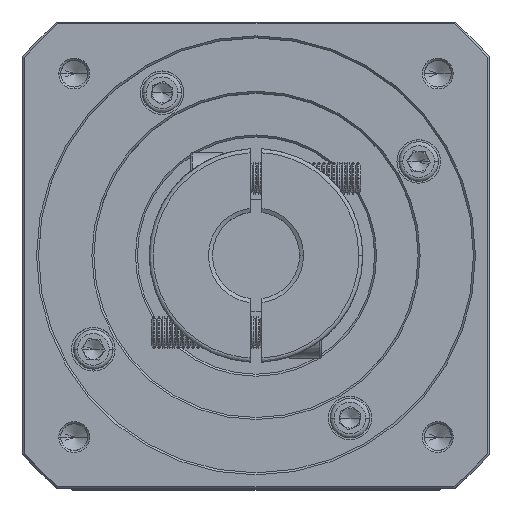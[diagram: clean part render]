
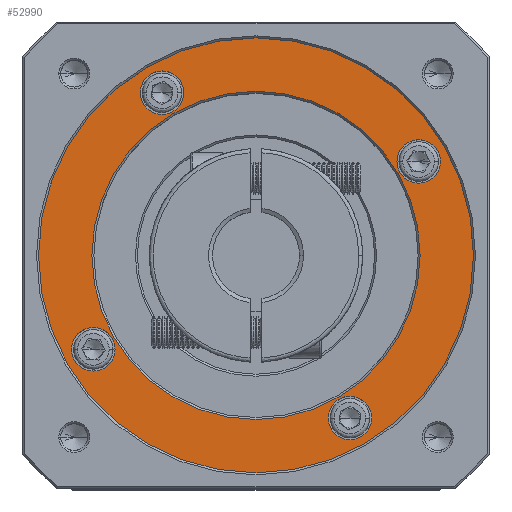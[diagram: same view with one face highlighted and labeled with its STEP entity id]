
A CAD part, top view. The second image highlights one B-rep face of the part: STEP entity #52990.
In plain terms, the highlighted planar face has unit normal (0, 0, 1).
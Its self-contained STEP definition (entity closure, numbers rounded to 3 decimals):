
#717 = EDGE_CURVE ( 'NONE', #68396, #26515, #9980, .T. ) ;
#1018 = CARTESIAN_POINT ( 'NONE',  ( 19.019, -85.161, 7.293 ) ) ;
#3487 = ORIENTED_EDGE ( 'NONE', *, *, #39993, .T. ) ;
#3622 = AXIS2_PLACEMENT_3D ( 'NONE', #31146, #39356, #107717 ) ;
#3686 = EDGE_LOOP ( 'NONE', ( #40477, #69964 ) ) ;
#3776 = VERTEX_POINT ( 'NONE', #1018 ) ;
#3950 = ORIENTED_EDGE ( 'NONE', *, *, #60966, .T. ) ;
#4181 = AXIS2_PLACEMENT_3D ( 'NONE', #8842, #42333, #42705 ) ;
#6910 = CARTESIAN_POINT ( 'NONE',  ( -56.867, -67.775, 7.293 ) ) ;
#8547 = ORIENTED_EDGE ( 'NONE', *, *, #33629, .T. ) ;
#8552 = FACE_BOUND ( 'NONE', #28548, .T. ) ;
#8643 = EDGE_CURVE ( 'NONE', #3776, #52521, #106061, .T. ) ;
#8842 = CARTESIAN_POINT ( 'NONE',  ( -3.867, -150.047, 7.293 ) ) ;
#9980 = CIRCLE ( 'NONE', #21817, 5.5 ) ;
#11939 = EDGE_CURVE ( 'NONE', #64395, #37717, #82953, .T. ) ;
#13241 = VERTEX_POINT ( 'NONE', #107887 ) ;
#16379 = DIRECTION ( 'NONE',  ( 1., 0., 0. ) ) ;
#18706 = DIRECTION ( 'NONE',  ( 0., 0., -1. ) ) ;
#19297 = FACE_BOUND ( 'NONE', #89128, .T. ) ;
#20358 = ORIENTED_EDGE ( 'NONE', *, *, #108509, .T. ) ;
#20667 = AXIS2_PLACEMENT_3D ( 'NONE', #34637, #34263, #50646 ) ;
#21791 = CIRCLE ( 'NONE', #100159, 5.5 ) ;
#21817 = AXIS2_PLACEMENT_3D ( 'NONE', #106759, #55926, #39884 ) ;
#23456 = VERTEX_POINT ( 'NONE', #43011 ) ;
#23624 = DIRECTION ( 'NONE',  ( 1., 0., 0. ) ) ;
#24142 = CARTESIAN_POINT ( 'NONE',  ( 13.519, -85.161, 7.293 ) ) ;
#24824 = CARTESIAN_POINT ( 'NONE',  ( 8.019, -85.161, 7.293 ) ) ;
#26058 = EDGE_CURVE ( 'NONE', #13241, #64993, #36063, .T. ) ;
#26515 = VERTEX_POINT ( 'NONE', #68409 ) ;
#27115 = ORIENTED_EDGE ( 'NONE', *, *, #8643, .T. ) ;
#28548 = EDGE_LOOP ( 'NONE', ( #20358, #85773 ) ) ;
#28776 = VERTEX_POINT ( 'NONE', #65918 ) ;
#31146 = CARTESIAN_POINT ( 'NONE',  ( -51.367, -67.775, 7.293 ) ) ;
#31291 = CIRCLE ( 'NONE', #36622, 41.5 ) ;
#31368 = CARTESIAN_POINT ( 'NONE',  ( -3.867, -150.047, 7.293 ) ) ;
#31747 = AXIS2_PLACEMENT_3D ( 'NONE', #67732, #75161, #101553 ) ;
#33629 = EDGE_CURVE ( 'NONE', #64993, #13241, #87916, .T. ) ;
#34046 = EDGE_CURVE ( 'NONE', #28776, #92387, #87690, .T. ) ;
#34263 = DIRECTION ( 'NONE',  ( 0., 0., -1. ) ) ;
#34637 = CARTESIAN_POINT ( 'NONE',  ( 13.519, -85.161, 7.293 ) ) ;
#35774 = CARTESIAN_POINT ( 'NONE',  ( -27.617, -108.911, 7.293 ) ) ;
#36063 = CIRCLE ( 'NONE', #109883, 5.5 ) ;
#36622 = AXIS2_PLACEMENT_3D ( 'NONE', #35774, #18706, #106304 ) ;
#37717 = VERTEX_POINT ( 'NONE', #74545 ) ;
#38947 = AXIS2_PLACEMENT_3D ( 'NONE', #92201, #91844, #100381 ) ;
#39356 = DIRECTION ( 'NONE',  ( 0., 0., -1. ) ) ;
#39884 = DIRECTION ( 'NONE',  ( 1., 0., 0. ) ) ;
#39993 = EDGE_CURVE ( 'NONE', #23456, #110254, #54758, .T. ) ;
#40477 = ORIENTED_EDGE ( 'NONE', *, *, #34046, .T. ) ;
#42135 = CARTESIAN_POINT ( 'NONE',  ( -68.753, -132.661, 7.293 ) ) ;
#42286 = EDGE_LOOP ( 'NONE', ( #27115, #88355 ) ) ;
#42333 = DIRECTION ( 'NONE',  ( 0., 0., -1. ) ) ;
#42705 = DIRECTION ( 'NONE',  ( 1., 0., 0. ) ) ;
#43011 = CARTESIAN_POINT ( 'NONE',  ( 27.383, -108.911, 7.293 ) ) ;
#44531 = FACE_BOUND ( 'NONE', #3686, .T. ) ;
#47926 = ORIENTED_EDGE ( 'NONE', *, *, #26058, .T. ) ;
#49216 = DIRECTION ( 'NONE',  ( 0., -1., 0. ) ) ;
#49580 = DIRECTION ( 'NONE',  ( 0., 0., -1. ) ) ;
#50349 = DIRECTION ( 'NONE',  ( 0., 0., 1. ) ) ;
#50646 = DIRECTION ( 'NONE',  ( 1., 0., 0. ) ) ;
#52521 = VERTEX_POINT ( 'NONE', #24824 ) ;
#52990 = ADVANCED_FACE ( 'NONE', ( #67166, #44531, #91000, #8552, #105631, #19297 ), #85603, .T. ) ;
#54465 = EDGE_LOOP ( 'NONE', ( #61940, #73964 ) ) ;
#54758 = CIRCLE ( 'NONE', #77659, 55. ) ;
#55926 = DIRECTION ( 'NONE',  ( 0., 0., -1. ) ) ;
#59620 = CIRCLE ( 'NONE', #3622, 5.5 ) ;
#60966 = EDGE_CURVE ( 'NONE', #110254, #23456, #92517, .T. ) ;
#61940 = ORIENTED_EDGE ( 'NONE', *, *, #91955, .T. ) ;
#62811 = CARTESIAN_POINT ( 'NONE',  ( -9.367, -150.047, 7.293 ) ) ;
#64395 = VERTEX_POINT ( 'NONE', #62811 ) ;
#64993 = VERTEX_POINT ( 'NONE', #66362 ) ;
#65727 = DIRECTION ( 'NONE',  ( 1., 0., 0. ) ) ;
#65918 = CARTESIAN_POINT ( 'NONE',  ( -27.617, -150.411, 7.293 ) ) ;
#66362 = CARTESIAN_POINT ( 'NONE',  ( -63.253, -132.661, 7.293 ) ) ;
#67166 = FACE_OUTER_BOUND ( 'NONE', #99456, .T. ) ;
#67732 = CARTESIAN_POINT ( 'NONE',  ( -27.617, -108.911, 7.293 ) ) ;
#68396 = VERTEX_POINT ( 'NONE', #6910 ) ;
#68409 = CARTESIAN_POINT ( 'NONE',  ( -45.867, -67.775, 7.293 ) ) ;
#69964 = ORIENTED_EDGE ( 'NONE', *, *, #92742, .T. ) ;
#73564 = AXIS2_PLACEMENT_3D ( 'NONE', #75999, #50349, #110135 ) ;
#73779 = DIRECTION ( 'NONE',  ( 0., 0., -1. ) ) ;
#73964 = ORIENTED_EDGE ( 'NONE', *, *, #717, .T. ) ;
#74545 = CARTESIAN_POINT ( 'NONE',  ( 1.633, -150.047, 7.293 ) ) ;
#75161 = DIRECTION ( 'NONE',  ( 0., 0., 1. ) ) ;
#75999 = CARTESIAN_POINT ( 'NONE',  ( -27.617, -108.911, 7.293 ) ) ;
#76686 = DIRECTION ( 'NONE',  ( 0., 0., -1. ) ) ;
#77103 = CIRCLE ( 'NONE', #4181, 5.5 ) ;
#77659 = AXIS2_PLACEMENT_3D ( 'NONE', #91435, #108492, #16379 ) ;
#81580 = CARTESIAN_POINT ( 'NONE',  ( -27.617, -108.911, 7.293 ) ) ;
#82953 = CIRCLE ( 'NONE', #95913, 5.5 ) ;
#84832 = DIRECTION ( 'NONE',  ( 1., 0., 0. ) ) ;
#85603 = PLANE ( 'NONE',  #73564 ) ;
#85773 = ORIENTED_EDGE ( 'NONE', *, *, #11939, .T. ) ;
#87351 = EDGE_CURVE ( 'NONE', #52521, #3776, #21791, .T. ) ;
#87690 = CIRCLE ( 'NONE', #95924, 41.5 ) ;
#87916 = CIRCLE ( 'NONE', #38947, 5.5 ) ;
#88355 = ORIENTED_EDGE ( 'NONE', *, *, #87351, .T. ) ;
#89128 = EDGE_LOOP ( 'NONE', ( #8547, #47926 ) ) ;
#89556 = CARTESIAN_POINT ( 'NONE',  ( -82.617, -108.911, 7.293 ) ) ;
#91000 = FACE_BOUND ( 'NONE', #42286, .T. ) ;
#91435 = CARTESIAN_POINT ( 'NONE',  ( -27.617, -108.911, 7.293 ) ) ;
#91844 = DIRECTION ( 'NONE',  ( 0., 0., -1. ) ) ;
#91955 = EDGE_CURVE ( 'NONE', #26515, #68396, #59620, .T. ) ;
#92201 = CARTESIAN_POINT ( 'NONE',  ( -68.753, -132.661, 7.293 ) ) ;
#92387 = VERTEX_POINT ( 'NONE', #104498 ) ;
#92517 = CIRCLE ( 'NONE', #31747, 55. ) ;
#92742 = EDGE_CURVE ( 'NONE', #92387, #28776, #31291, .T. ) ;
#95913 = AXIS2_PLACEMENT_3D ( 'NONE', #31368, #49580, #23624 ) ;
#95924 = AXIS2_PLACEMENT_3D ( 'NONE', #81580, #73779, #49216 ) ;
#99179 = DIRECTION ( 'NONE',  ( 0., 0., -1. ) ) ;
#99456 = EDGE_LOOP ( 'NONE', ( #3487, #3950 ) ) ;
#100159 = AXIS2_PLACEMENT_3D ( 'NONE', #24142, #99179, #65727 ) ;
#100381 = DIRECTION ( 'NONE',  ( 1., 0., 0. ) ) ;
#101553 = DIRECTION ( 'NONE',  ( 1., 0., 0. ) ) ;
#104498 = CARTESIAN_POINT ( 'NONE',  ( -27.617, -67.411, 7.293 ) ) ;
#105631 = FACE_BOUND ( 'NONE', #54465, .T. ) ;
#106061 = CIRCLE ( 'NONE', #20667, 5.5 ) ;
#106304 = DIRECTION ( 'NONE',  ( 0., -1., 0. ) ) ;
#106759 = CARTESIAN_POINT ( 'NONE',  ( -51.367, -67.775, 7.293 ) ) ;
#107717 = DIRECTION ( 'NONE',  ( 1., 0., 0. ) ) ;
#107887 = CARTESIAN_POINT ( 'NONE',  ( -74.253, -132.661, 7.293 ) ) ;
#108492 = DIRECTION ( 'NONE',  ( 0., 0., 1. ) ) ;
#108509 = EDGE_CURVE ( 'NONE', #37717, #64395, #77103, .T. ) ;
#109883 = AXIS2_PLACEMENT_3D ( 'NONE', #42135, #76686, #84832 ) ;
#110135 = DIRECTION ( 'NONE',  ( 1., 0., 0. ) ) ;
#110254 = VERTEX_POINT ( 'NONE', #89556 ) ;
